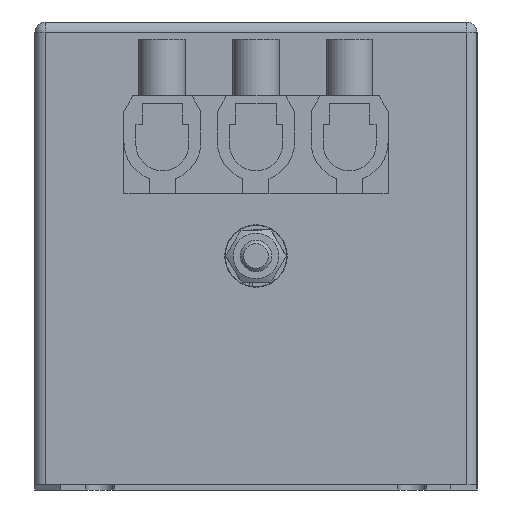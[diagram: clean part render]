
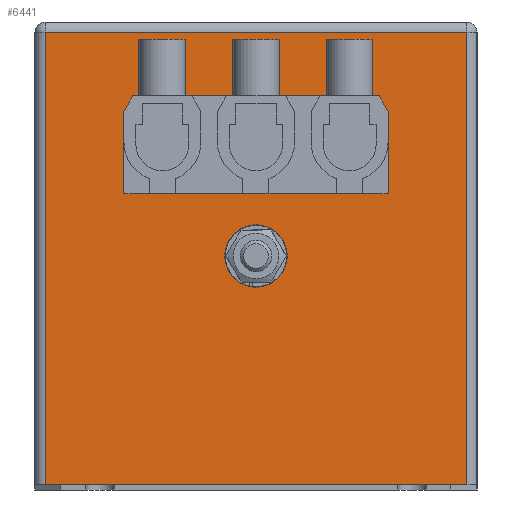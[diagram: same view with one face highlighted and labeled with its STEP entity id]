
A CAD part, left-side view. The second image highlights one B-rep face of the part: STEP entity #6441.
In plain terms, the highlighted planar face has unit normal (-1, 0, 0).
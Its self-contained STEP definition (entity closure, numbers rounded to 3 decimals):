
#129=CARTESIAN_POINT('',(-110.0,0.,39.475));
#130=VERTEX_POINT('',#129);
#131=CARTESIAN_POINT('',(-110.0,0.,45.0));
#132=DIRECTION('',(1.0,0.0,0.0));
#133=DIRECTION('',(0.0,0.0,-1.0));
#134=AXIS2_PLACEMENT_3D('',#131,#132,#133);
#135=CIRCLE('',#134,5.525);
#136=EDGE_CURVE('',#130,#130,#135,.T.);
#1559=CARTESIAN_POINT('',(-110.0,6.412,57.));
#1560=VERTEX_POINT('',#1559);
#1561=CARTESIAN_POINT('',(-110.0,6.412,75.8));
#1562=VERTEX_POINT('',#1561);
#1563=CARTESIAN_POINT('',(-110.0,6.412,57.));
#1564=DIRECTION('',(0.0,0.0,1.0));
#1565=VECTOR('',#1564,18.8);
#1566=LINE('',#1563,#1565);
#1567=EDGE_CURVE('',#1560,#1562,#1566,.T.);
#1569=CARTESIAN_POINT('',(-110.0,11.588,57.));
#1570=VERTEX_POINT('',#1569);
#1578=CARTESIAN_POINT('',(-110.0,11.588,75.8));
#1579=VERTEX_POINT('',#1578);
#1580=CARTESIAN_POINT('',(-110.0,11.588,75.8));
#1581=DIRECTION('',(0.0,0.0,-1.0));
#1582=VECTOR('',#1581,18.8);
#1583=LINE('',#1580,#1582);
#1584=EDGE_CURVE('',#1579,#1570,#1583,.T.);
#1601=CARTESIAN_POINT('',(-110.0,25.4,72.8));
#1602=VERTEX_POINT('',#1601);
#1603=CARTESIAN_POINT('',(-110.0,23.668,75.8));
#1604=VERTEX_POINT('',#1603);
#1605=CARTESIAN_POINT('',(-110.0,25.4,72.8));
#1606=DIRECTION('',(0.0,-0.5,0.866));
#1607=VECTOR('',#1606,3.464);
#1608=LINE('',#1605,#1607);
#1609=EDGE_CURVE('',#1602,#1604,#1608,.T.);
#1911=CARTESIAN_POINT('',(-110.0,-25.4,72.8));
#1912=VERTEX_POINT('',#1911);
#1913=CARTESIAN_POINT('',(-110.0,-25.4,57.));
#1914=VERTEX_POINT('',#1913);
#1915=CARTESIAN_POINT('',(-110.0,-25.4,72.8));
#1916=DIRECTION('',(0.0,0.0,-1.0));
#1917=VECTOR('',#1916,15.8);
#1918=LINE('',#1915,#1917);
#1919=EDGE_CURVE('',#1912,#1914,#1918,.T.);
#1967=CARTESIAN_POINT('',(-110.0,-6.412,75.8));
#1968=VERTEX_POINT('',#1967);
#1969=CARTESIAN_POINT('',(-110.0,6.412,75.8));
#1970=DIRECTION('',(0.0,-1.0,0.0));
#1971=VECTOR('',#1970,12.824);
#1972=LINE('',#1969,#1971);
#1973=EDGE_CURVE('',#1562,#1968,#1972,.T.);
#1976=CARTESIAN_POINT('',(-110.0,23.668,75.8));
#1977=DIRECTION('',(0.0,-1.0,0.0));
#1978=VECTOR('',#1977,12.08);
#1979=LINE('',#1976,#1978);
#1980=EDGE_CURVE('',#1604,#1579,#1979,.T.);
#2055=CARTESIAN_POINT('',(-110.0,-23.668,75.8));
#2056=VERTEX_POINT('',#2055);
#2063=CARTESIAN_POINT('',(-110.0,-11.588,75.8));
#2064=VERTEX_POINT('',#2063);
#2065=CARTESIAN_POINT('',(-110.0,-11.588,75.8));
#2066=DIRECTION('',(0.0,-1.0,0.0));
#2067=VECTOR('',#2066,12.08);
#2068=LINE('',#2065,#2067);
#2069=EDGE_CURVE('',#2064,#2056,#2068,.T.);
#2119=CARTESIAN_POINT('',(-110.0,-23.668,75.8));
#2120=DIRECTION('',(0.0,-0.5,-0.866));
#2121=VECTOR('',#2120,3.464);
#2122=LINE('',#2119,#2121);
#2123=EDGE_CURVE('',#2056,#1912,#2122,.T.);
#2276=CARTESIAN_POINT('',(-110.0,-6.412,57.));
#2277=VERTEX_POINT('',#2276);
#2278=CARTESIAN_POINT('',(-110.0,-6.412,75.8));
#2279=DIRECTION('',(0.0,0.0,-1.0));
#2280=VECTOR('',#2279,18.8);
#2281=LINE('',#2278,#2280);
#2282=EDGE_CURVE('',#1968,#2277,#2281,.T.);
#2285=CARTESIAN_POINT('',(-110.0,-11.588,57.));
#2286=VERTEX_POINT('',#2285);
#2287=CARTESIAN_POINT('',(-110.0,-11.588,57.));
#2288=DIRECTION('',(0.0,0.0,1.0));
#2289=VECTOR('',#2288,18.8);
#2290=LINE('',#2287,#2289);
#2291=EDGE_CURVE('',#2286,#2064,#2290,.T.);
#2538=CARTESIAN_POINT('',(-110.0,25.4,57.));
#2539=VERTEX_POINT('',#2538);
#2540=CARTESIAN_POINT('',(-110.0,25.4,57.));
#2541=DIRECTION('',(0.0,0.0,1.0));
#2542=VECTOR('',#2541,15.8);
#2543=LINE('',#2540,#2542);
#2544=EDGE_CURVE('',#2539,#1602,#2543,.T.);
#3371=CARTESIAN_POINT('',(-110.0,-6.412,57.));
#3372=DIRECTION('',(0.0,1.0,0.0));
#3373=VECTOR('',#3372,12.824);
#3374=LINE('',#3371,#3373);
#3375=EDGE_CURVE('',#2277,#1560,#3374,.T.);
#3378=CARTESIAN_POINT('',(-110.0,-25.4,57.));
#3379=DIRECTION('',(0.0,1.0,0.0));
#3380=VECTOR('',#3379,13.812);
#3381=LINE('',#3378,#3380);
#3382=EDGE_CURVE('',#1914,#2286,#3381,.T.);
#3425=CARTESIAN_POINT('',(-110.0,11.588,57.));
#3426=DIRECTION('',(0.0,1.0,0.0));
#3427=VECTOR('',#3426,13.812);
#3428=LINE('',#3425,#3427);
#3429=EDGE_CURVE('',#1570,#2539,#3428,.T.);
#6215=CARTESIAN_POINT('',(-110.0,40.5,88.0));
#6216=VERTEX_POINT('',#6215);
#6224=CARTESIAN_POINT('',(-110.0,-40.5,88.0));
#6225=VERTEX_POINT('',#6224);
#6226=CARTESIAN_POINT('',(-110.0,40.5,88.0));
#6227=DIRECTION('',(0.0,-1.0,0.0));
#6228=VECTOR('',#6227,81.);
#6229=LINE('',#6226,#6228);
#6230=EDGE_CURVE('',#6216,#6225,#6229,.T.);
#6376=CARTESIAN_POINT('',(-110.0,-40.5,1.0));
#6377=VERTEX_POINT('',#6376);
#6378=CARTESIAN_POINT('',(-110.0,-40.5,88.0));
#6379=DIRECTION('',(0.0,0.0,-1.0));
#6380=VECTOR('',#6379,87.0);
#6381=LINE('',#6378,#6380);
#6382=EDGE_CURVE('',#6225,#6377,#6381,.T.);
#6395=CARTESIAN_POINT('',(-110.0,42.5,0.0));
#6396=DIRECTION('',(-1.0,0.0,0.0));
#6397=DIRECTION('',(0.0,-1.0,0.0));
#6398=AXIS2_PLACEMENT_3D('',#6395,#6396,#6397);
#6399=PLANE('',#6398);
#6400=ORIENTED_EDGE('',*,*,#6230,.F.);
#6401=CARTESIAN_POINT('',(-110.0,40.5,1.0));
#6402=VERTEX_POINT('',#6401);
#6403=CARTESIAN_POINT('',(-110.0,40.5,1.0));
#6404=DIRECTION('',(0.0,0.0,1.0));
#6405=VECTOR('',#6404,87.0);
#6406=LINE('',#6403,#6405);
#6407=EDGE_CURVE('',#6402,#6216,#6406,.T.);
#6408=ORIENTED_EDGE('',*,*,#6407,.F.);
#6409=CARTESIAN_POINT('',(-110.0,40.5,1.0));
#6410=DIRECTION('',(0.0,-1.0,0.0));
#6411=VECTOR('',#6410,81.);
#6412=LINE('',#6409,#6411);
#6413=EDGE_CURVE('',#6402,#6377,#6412,.T.);
#6414=ORIENTED_EDGE('',*,*,#6413,.T.);
#6415=ORIENTED_EDGE('',*,*,#6382,.F.);
#6416=EDGE_LOOP('',(#6400,#6408,#6414,#6415));
#6417=FACE_OUTER_BOUND('',#6416,.T.);
#6418=ORIENTED_EDGE('',*,*,#136,.T.);
#6419=EDGE_LOOP('',(#6418));
#6420=FACE_BOUND('',#6419,.T.);
#6421=ORIENTED_EDGE('',*,*,#1567,.T.);
#6422=ORIENTED_EDGE('',*,*,#1973,.T.);
#6423=ORIENTED_EDGE('',*,*,#2282,.T.);
#6424=ORIENTED_EDGE('',*,*,#3375,.T.);
#6425=EDGE_LOOP('',(#6421,#6422,#6423,#6424));
#6426=FACE_BOUND('',#6425,.T.);
#6427=ORIENTED_EDGE('',*,*,#1609,.T.);
#6428=ORIENTED_EDGE('',*,*,#1980,.T.);
#6429=ORIENTED_EDGE('',*,*,#1584,.T.);
#6430=ORIENTED_EDGE('',*,*,#3429,.T.);
#6431=ORIENTED_EDGE('',*,*,#2544,.T.);
#6432=EDGE_LOOP('',(#6427,#6428,#6429,#6430,#6431));
#6433=FACE_BOUND('',#6432,.T.);
#6434=ORIENTED_EDGE('',*,*,#2123,.T.);
#6435=ORIENTED_EDGE('',*,*,#1919,.T.);
#6436=ORIENTED_EDGE('',*,*,#3382,.T.);
#6437=ORIENTED_EDGE('',*,*,#2291,.T.);
#6438=ORIENTED_EDGE('',*,*,#2069,.T.);
#6439=EDGE_LOOP('',(#6434,#6435,#6436,#6437,#6438));
#6440=FACE_BOUND('',#6439,.T.);
#6441=ADVANCED_FACE('',(#6417,#6420,#6426,#6433,#6440),#6399,.T.);
